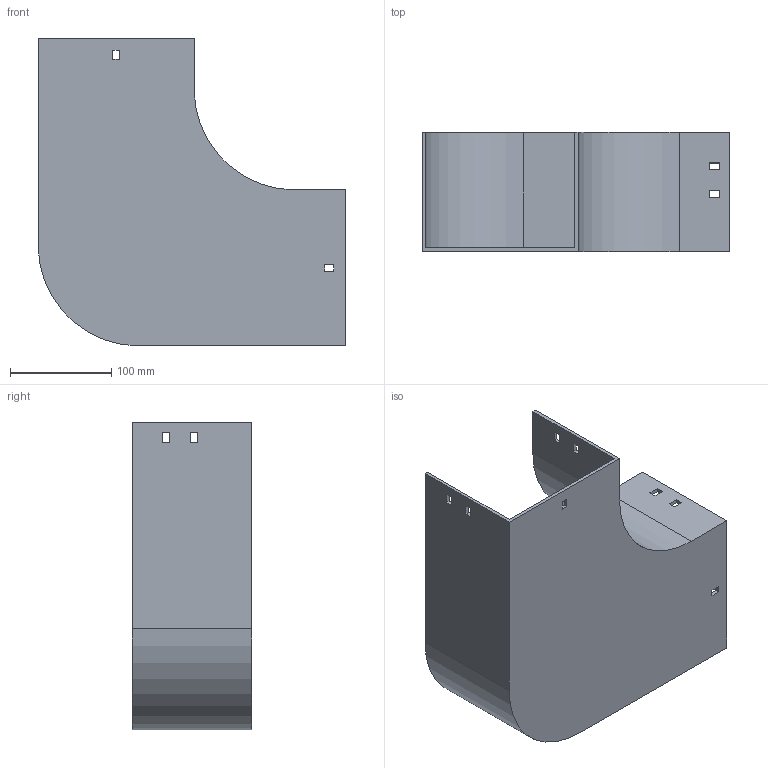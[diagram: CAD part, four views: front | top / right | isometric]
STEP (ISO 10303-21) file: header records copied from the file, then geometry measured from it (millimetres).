
FILE_DESCRIPTION (( 'STEP AP214' ), '1' );
FILE_NAME ('10B1J150.step', '2025-02-21T09:39:58', ( '' ), ( '' ), 'SwSTEP 2.0', 'SolidWorks 2023', '' );
FILE_SCHEMA (( 'AUTOMOTIVE_DESIGN' ));
Length unit declared in the file: millimetre
Products named in the file (1): 10B1J150
Bounding box: 304 x 117.5 x 304 mm (x, y, z)
Volume: 570378 mm3; surface area: 332650.9 mm2
Topology: 1 solids, 1 shells, 58 faces, 168 edges, 112 vertices
Faces by surface type: plane 54, cylinder 4
Entity records: 1943 total; most frequent: CARTESIAN_POINT 339, ORIENTED_EDGE 336, DIRECTION 294, EDGE_CURVE 168, VECTOR 160, LINE 160, VERTEX_POINT 112, EDGE_LOOP 78
